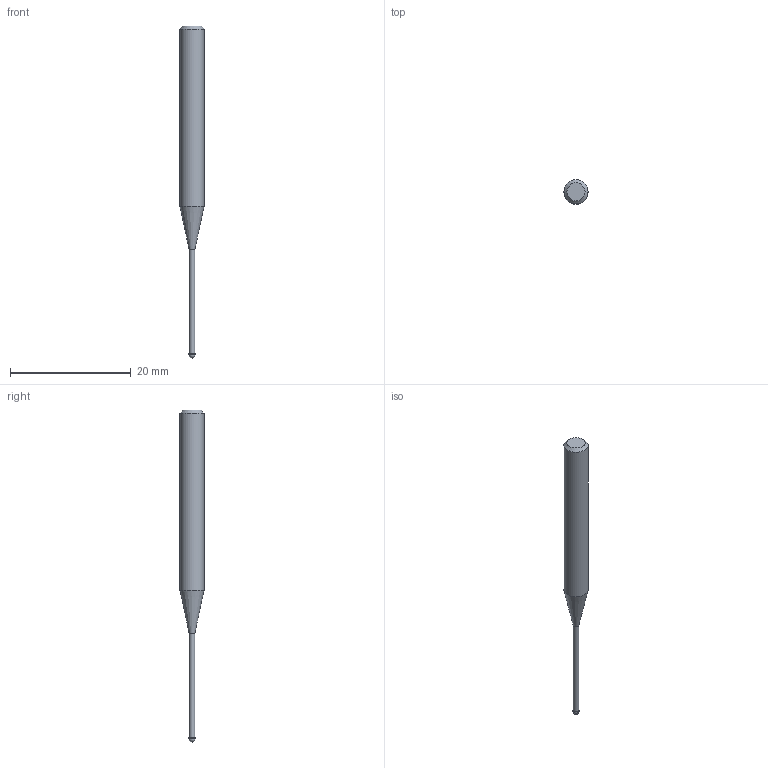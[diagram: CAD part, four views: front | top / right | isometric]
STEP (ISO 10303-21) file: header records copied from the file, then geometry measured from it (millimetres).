
FILE_DESCRIPTION((''),'2;1');
FILE_NAME('C:\Users\nsx150\AppData\Local\Temp\Mastercam 2021\ARV7HD45SN\TEMP.step','2023-06-13T16:35:50',(''),(''),'STEP Write','Mastercam 2021 ... CNC Software, Inc.','');
FILE_SCHEMA(('AUTOMOTIVE_DESIGN'));
Length unit declared in the file: millimetre
Products named in the file (1): None
Bounding box: 4 x 4 x 55 mm (x, y, z)
Volume: 424.9 mm3; surface area: 495.7 mm2
Topology: 2 solids, 2 shells, 9 faces, 14 edges, 8 vertices
Faces by surface type: plane 3, cylinder 3, cone 2, sphere 1
Full cylindrical faces by diameter (mm): 0.95 x1, 1 x1, 4 x1
Entity records: 211 total; most frequent: DIRECTION 36, CARTESIAN_POINT 25, AXIS2_PLACEMENT_3D 18, ORIENTED_EDGE 14, EDGE_LOOP 14, STYLED_ITEM 12, ADVANCED_FACE 9, FACE_BOUND 8
